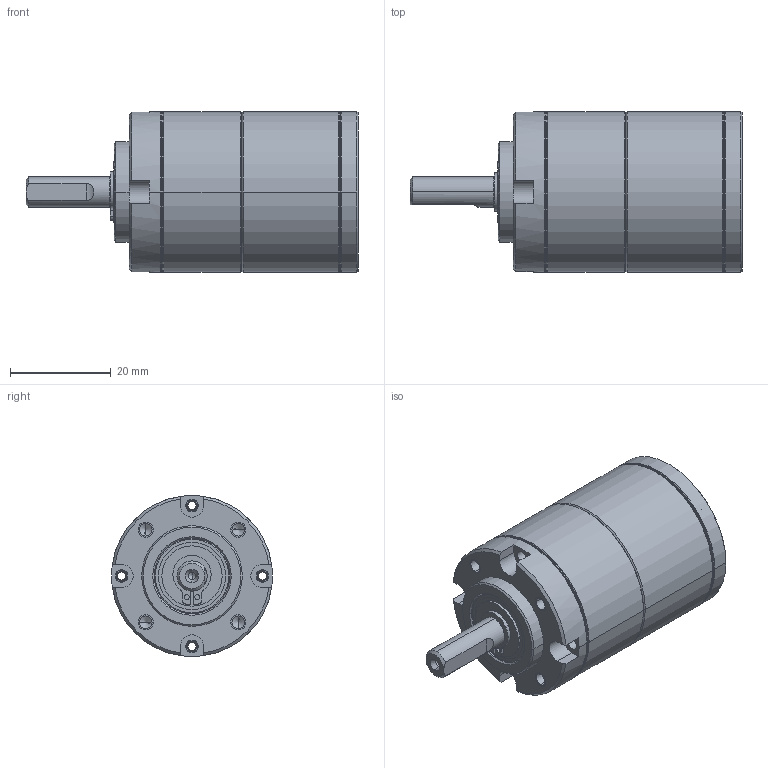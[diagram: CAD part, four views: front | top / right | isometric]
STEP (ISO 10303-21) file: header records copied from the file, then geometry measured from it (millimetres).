
FILE_DESCRIPTION((''),'2;1');
FILE_NAME('BBH_ASM','2023-03-20T',('Hsien.Hsu'),(''),'CREO PARAMETRIC BY PTC INC, 2016050','CREO PARAMETRIC BY PTC INC, 2016050','');
FILE_SCHEMA(('AUTOMOTIVE_DESIGN { 1 0 10303 214 1 1 1 1 }'));
Length unit declared in the file: millimetre
Products named in the file (13): NEWCOVER; C_LOCK; BALL_BEARING_M96860301; P32018_1107105_PW_; P32018_1109105_SW_; PG32CRING; NEWCOVER_ASM; 3202SG02_B; 3202SC02_B_ASM; 3201RSG020104500B; 3201RSG195; 3204LC0206100B; BBH_ASM
Assembly tree (15 placements, depth 3):
  BBH_ASM
    NEWCOVER_ASM
      NEWCOVER
      C_LOCK
      BALL_BEARING_M96860301  x2
      P32018_1107105_PW_
      P32018_1109105_SW_
      PG32CRING
    3202SC02_B_ASM
      3202SG02_B
      P32018_1109105_SW_
    3201RSG020104500B
    3201RSG195
    P32018_1107105_PW_
    3204LC0206100B
Bounding box: 66 x 32 x 32 mm (x, y, z)
Volume: 24472.6 mm3; surface area: 19196.3 mm2
Topology: 13 solids, 21 shells, 394 faces, 1078 edges, 784 vertices
Faces by surface type: cylinder 195, cone 100, plane 75, torus 24
Entity records: 15372 total; most frequent: DIRECTION 2279, CARTESIAN_POINT 2185, ORIENTED_EDGE 1636, AXIS2_PLACEMENT_3D 922, EDGE_CURVE 834, PRESENTATION_STYLE_ASSIGNMENT 709, STYLED_ITEM 709, CURVE_STYLE 695
